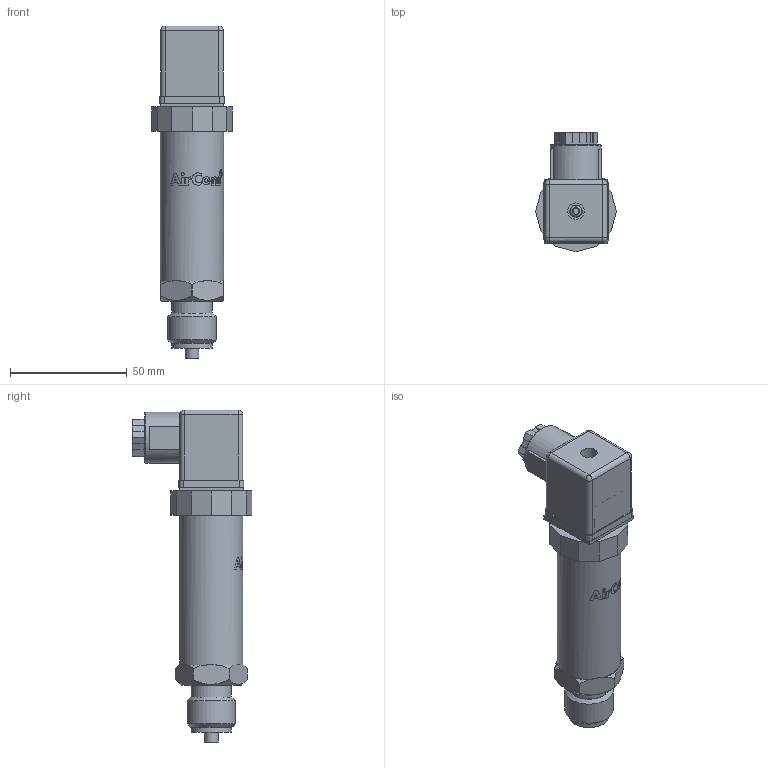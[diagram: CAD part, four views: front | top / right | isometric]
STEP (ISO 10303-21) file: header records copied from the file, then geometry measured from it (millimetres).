
FILE_DESCRIPTION((''),'2;1');
FILE_NAME('F:\AirCom-Produktdokumentation\Druckmessumformer\D6\CAD\CAD AirCom\3D\B-D6x-142.stp','2008-10-16T10:50:38',('Frank Schroers'),(''),'Autodesk Inventor 2008','Autodesk Inventor 2008','');
FILE_SCHEMA(('AUTOMOTIVE_DESIGN { 1 0 10303 214 1 1 1 1 }'));
Length unit declared in the file: millimetre
Products named in the file (9): B-D6A-01; B-2509; B-2509-Deckel; B-2509-Dichtung1; B-2509-Dichtung; B-2509-Kabelverschluss; B-2509-Scheibe; B-2509-Anschluss
Assembly tree (8 placements, depth 3):
  B-D6A-01
    B-D6A-01
    B-2509
      B-2509-Deckel
      B-2509-Dichtung1
      B-2509-Dichtung
      B-2509-Kabelverschluss
      B-2509-Scheibe
      B-2509-Anschluss
Bounding box: 34.5 x 50.96 x 141.9 mm (x, y, z)
Volume: 78640.6 mm3; surface area: 30877 mm2
Topology: 7 solids, 7 shells, 548 faces, 1421 edges, 923 vertices
Faces by surface type: plane 385, cylinder 80, bspline 53, sphere 14, cone 11, torus 5
Full cylindrical faces by diameter (mm): 2.6 x1, 2.72 x1, 4.25 x1, 4.5 x1, 5.25 x1, 5.9 x1, 6.4 x1, 7 x1, 8 x1, 9.95 x1, 10 x1, 10.5 x1, 13 x1, 13.25 x1, 13.75 x1, 14.2 x1, 15 x1, 17.3 x2, 20.7 x1, 21.8 x1, 27 x1
Entity records: 25192 total; most frequent: CARTESIAN_POINT 11972, ORIENTED_EDGE 2748, DIRECTION 2449, EDGE_CURVE 1374, VECTOR 1007, LINE 1007, VERTEX_POINT 916, AXIS2_PLACEMENT_3D 721
